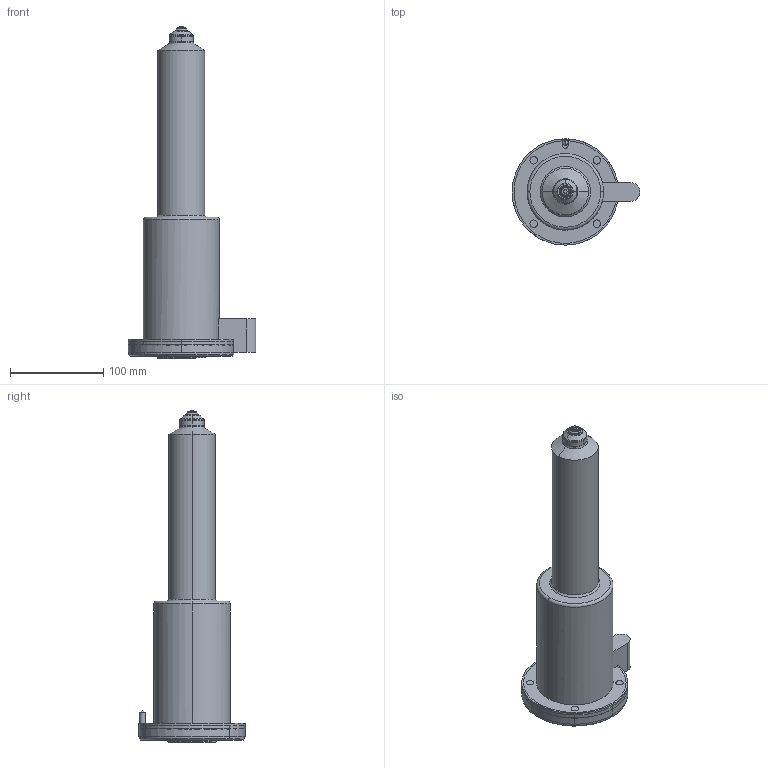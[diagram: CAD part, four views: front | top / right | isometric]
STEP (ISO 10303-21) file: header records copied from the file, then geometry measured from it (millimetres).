
FILE_DESCRIPTION (( 'STEP AP214' ), '1' );
FILE_NAME ('SR20_OPEN_350_BAND.STEP', '2009-05-07T16:15:42', ( 'Synventive Molding Solutions' ), ( 'Synventive Molding Solutions' ), 'SwSTEP 2.0', 'SolidWorks 2008', '' );
FILE_SCHEMA (( 'AUTOMOTIVE_DESIGN' ));
Length unit declared in the file: millimetre
Products named in the file (1): SR20_OPEN_350_BAND
Bounding box: 137 x 114 x 356 mm (x, y, z)
Volume: 1973210.7 mm3; surface area: 186407.8 mm2
Topology: 4 solids, 4 shells, 465 faces, 1178 edges, 735 vertices
Faces by surface type: cylinder 190, plane 159, torus 69, cone 39, sphere 4, bspline 4
Entity records: 20408 total; most frequent: CARTESIAN_POINT 3823, DIRECTION 2513, ORIENTED_EDGE 2344, EDGE_CURVE 1172, AXIS2_PLACEMENT_3D 987, VERTEX_POINT 735, LINE 539, VECTOR 539
